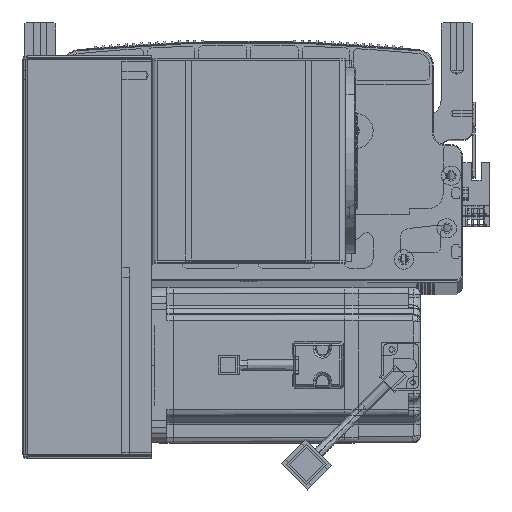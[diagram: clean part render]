
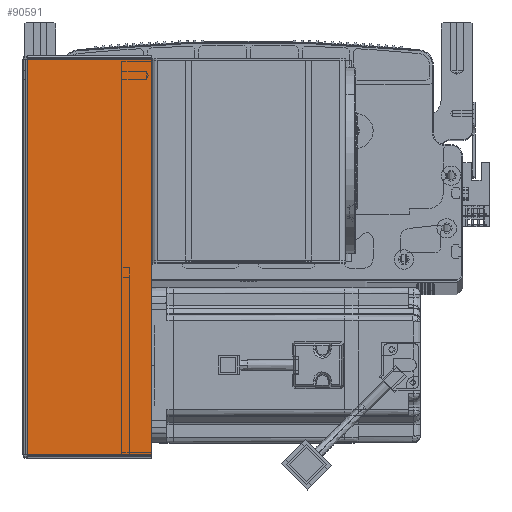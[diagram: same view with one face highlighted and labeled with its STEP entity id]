
A CAD part, top view. The second image highlights one B-rep face of the part: STEP entity #90591.
In plain terms, the highlighted planar face has unit normal (0, 0, 1) as drawn and (0, -1, 0) by its records, which use the part's own axes.
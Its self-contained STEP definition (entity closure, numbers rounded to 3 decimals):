
#507 = VERTEX_POINT ( 'NONE', #78413 ) ;
#5930 = LINE ( 'NONE', #93998, #59058 ) ;
#6595 = ORIENTED_EDGE ( 'NONE', *, *, #81291, .T. ) ;
#7108 = ORIENTED_EDGE ( 'NONE', *, *, #58993, .T. ) ;
#12754 = FACE_OUTER_BOUND ( 'NONE', #34076, .T. ) ;
#16433 = DIRECTION ( 'NONE',  ( 0., 1., 0. ) ) ;
#26391 = EDGE_CURVE ( 'NONE', #507, #95599, #92461, .T. ) ;
#26817 = VERTEX_POINT ( 'NONE', #75910 ) ;
#27521 = VECTOR ( 'NONE', #71378, 1000. ) ;
#32499 = CARTESIAN_POINT ( 'NONE',  ( 0.737, -1.5, -0.707 ) ) ;
#32796 = EDGE_CURVE ( 'NONE', #95599, #26817, #35539, .T. ) ;
#34076 = EDGE_LOOP ( 'NONE', ( #41458, #6595, #7108, #83511 ) ) ;
#35539 = LINE ( 'NONE', #42590, #84944 ) ;
#41458 = ORIENTED_EDGE ( 'NONE', *, *, #26391, .F. ) ;
#42590 = CARTESIAN_POINT ( 'NONE',  ( 0., -1.5, -0.707 ) ) ;
#45767 = CARTESIAN_POINT ( 'NONE',  ( 0., -1.5, -203.293 ) ) ;
#58993 = EDGE_CURVE ( 'NONE', #59084, #26817, #5930, .T. ) ;
#59058 = VECTOR ( 'NONE', #101917, 1000. ) ;
#59084 = VERTEX_POINT ( 'NONE', #101126 ) ;
#68152 = DIRECTION ( 'NONE',  ( 0., 0., 1. ) ) ;
#71263 = DIRECTION ( 'NONE',  ( -1., 0., 0. ) ) ;
#71378 = DIRECTION ( 'NONE',  ( 1., 0., 0. ) ) ;
#71455 = VECTOR ( 'NONE', #68152, 1000. ) ;
#75910 = CARTESIAN_POINT ( 'NONE',  ( 64.5, -1.5, -0.707 ) ) ;
#78413 = CARTESIAN_POINT ( 'NONE',  ( 0.737, -1.5, -203.293 ) ) ;
#79564 = CARTESIAN_POINT ( 'NONE',  ( 0., -1.5, 0. ) ) ;
#81291 = EDGE_CURVE ( 'NONE', #507, #59084, #92961, .T. ) ;
#83511 = ORIENTED_EDGE ( 'NONE', *, *, #32796, .F. ) ;
#83667 = CARTESIAN_POINT ( 'NONE',  ( 0.737, -1.5, 0. ) ) ;
#84944 = VECTOR ( 'NONE', #97828, 1000. ) ;
#88046 = AXIS2_PLACEMENT_3D ( 'NONE', #79564, #16433, #71263 ) ;
#88180 = PLANE ( 'NONE',  #88046 ) ;
#90591 = ADVANCED_FACE ( 'NONE', ( #12754 ), #88180, .F. ) ;
#92461 = LINE ( 'NONE', #83667, #71455 ) ;
#92961 = LINE ( 'NONE', #45767, #27521 ) ;
#93998 = CARTESIAN_POINT ( 'NONE',  ( 64.5, -1.5, 0. ) ) ;
#95599 = VERTEX_POINT ( 'NONE', #32499 ) ;
#97828 = DIRECTION ( 'NONE',  ( 1., 0., 0. ) ) ;
#101126 = CARTESIAN_POINT ( 'NONE',  ( 64.5, -1.5, -203.293 ) ) ;
#101917 = DIRECTION ( 'NONE',  ( 0., 0., 1. ) ) ;
